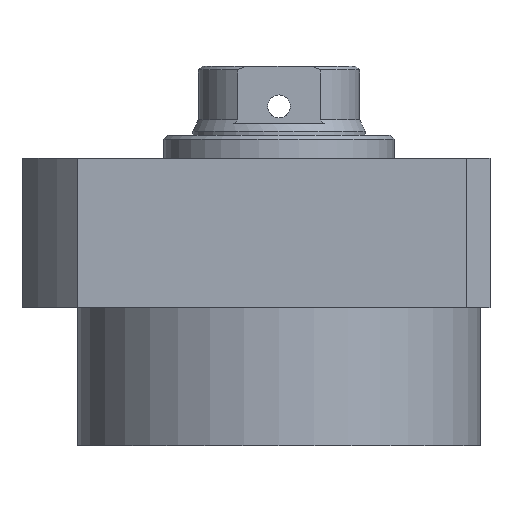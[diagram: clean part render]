
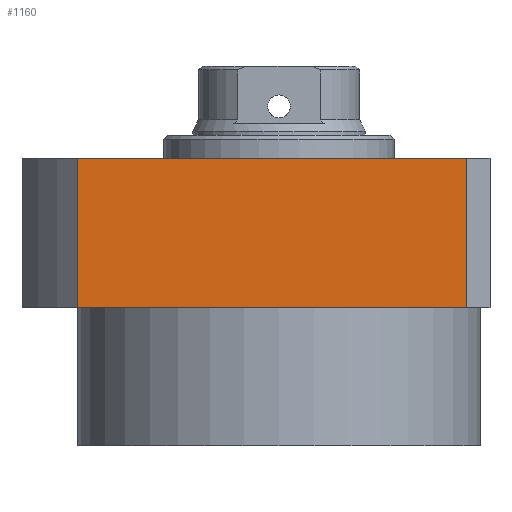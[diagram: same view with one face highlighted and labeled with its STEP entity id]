
A CAD part, front view. The second image highlights one B-rep face of the part: STEP entity #1160.
In plain terms, the highlighted planar face has unit normal (0, -1, 0).
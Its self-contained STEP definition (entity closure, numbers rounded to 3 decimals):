
#25 = VERTEX_POINT ( 'NONE', #348 ) ;
#60 = ORIENTED_EDGE ( 'NONE', *, *, #1470, .T. ) ;
#92 = PLANE ( 'NONE',  #1036 ) ;
#94 = VECTOR ( 'NONE', #955, 1000. ) ;
#135 = CARTESIAN_POINT ( 'NONE',  ( 55., -55., -19.5 ) ) ;
#300 = DIRECTION ( 'NONE',  ( -1., 0., 0. ) ) ;
#309 = EDGE_CURVE ( 'NONE', #1411, #985, #1306, .T. ) ;
#348 = CARTESIAN_POINT ( 'NONE',  ( 49., -55., 19.5 ) ) ;
#425 = CARTESIAN_POINT ( 'NONE',  ( 55., -55., 19.5 ) ) ;
#474 = LINE ( 'NONE', #135, #94 ) ;
#583 = LINE ( 'NONE', #689, #768 ) ;
#689 = CARTESIAN_POINT ( 'NONE',  ( 49., -55., 19.5 ) ) ;
#768 = VECTOR ( 'NONE', #1217, 1000. ) ;
#804 = VECTOR ( 'NONE', #1469, 1000. ) ;
#848 = VERTEX_POINT ( 'NONE', #1557 ) ;
#865 = CARTESIAN_POINT ( 'NONE',  ( 55., -55., 19.5 ) ) ;
#868 = CARTESIAN_POINT ( 'NONE',  ( -52.45, -55., -19.5 ) ) ;
#952 = CARTESIAN_POINT ( 'NONE',  ( -52.45, -55., 19.5 ) ) ;
#955 = DIRECTION ( 'NONE',  ( 1., 0., 0. ) ) ;
#985 = VERTEX_POINT ( 'NONE', #868 ) ;
#1011 = ORIENTED_EDGE ( 'NONE', *, *, #309, .T. ) ;
#1036 = AXIS2_PLACEMENT_3D ( 'NONE', #425, #1975, #300 ) ;
#1160 = ADVANCED_FACE ( 'NONE', ( #2001 ), #92, .F. ) ;
#1193 = VECTOR ( 'NONE', #1196, 1000. ) ;
#1196 = DIRECTION ( 'NONE',  ( 1., 0., 0. ) ) ;
#1217 = DIRECTION ( 'NONE',  ( 0., 0., 1. ) ) ;
#1306 = LINE ( 'NONE', #952, #804 ) ;
#1411 = VERTEX_POINT ( 'NONE', #1812 ) ;
#1466 = EDGE_CURVE ( 'NONE', #1411, #25, #2133, .T. ) ;
#1469 = DIRECTION ( 'NONE',  ( 0., 0., -1. ) ) ;
#1470 = EDGE_CURVE ( 'NONE', #848, #25, #583, .T. ) ;
#1557 = CARTESIAN_POINT ( 'NONE',  ( 49., -55., -19.5 ) ) ;
#1605 = ORIENTED_EDGE ( 'NONE', *, *, #2134, .T. ) ;
#1750 = EDGE_LOOP ( 'NONE', ( #1605, #60, #1828, #1011 ) ) ;
#1812 = CARTESIAN_POINT ( 'NONE',  ( -52.45, -55., 19.5 ) ) ;
#1828 = ORIENTED_EDGE ( 'NONE', *, *, #1466, .F. ) ;
#1975 = DIRECTION ( 'NONE',  ( 0., 1., 0. ) ) ;
#2001 = FACE_OUTER_BOUND ( 'NONE', #1750, .T. ) ;
#2133 = LINE ( 'NONE', #865, #1193 ) ;
#2134 = EDGE_CURVE ( 'NONE', #985, #848, #474, .T. ) ;
